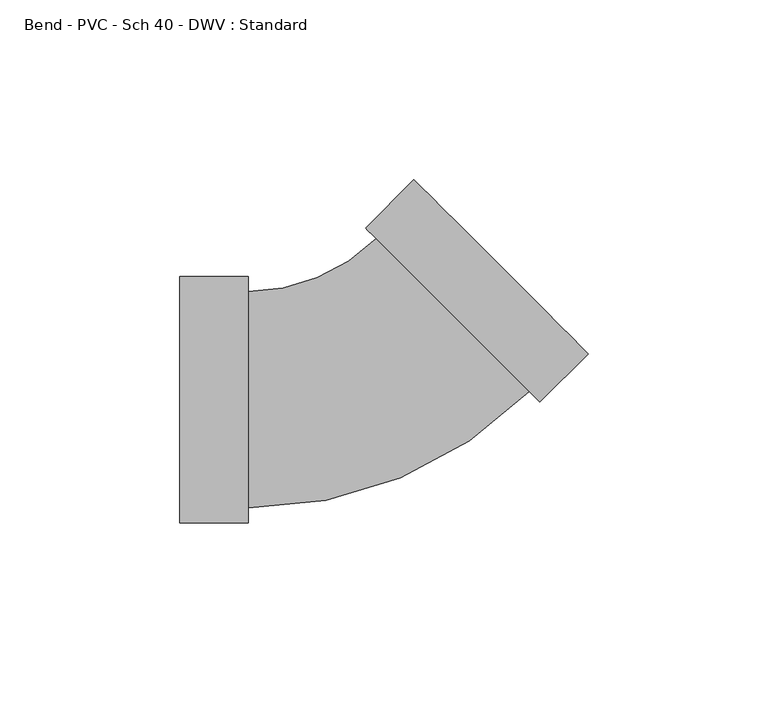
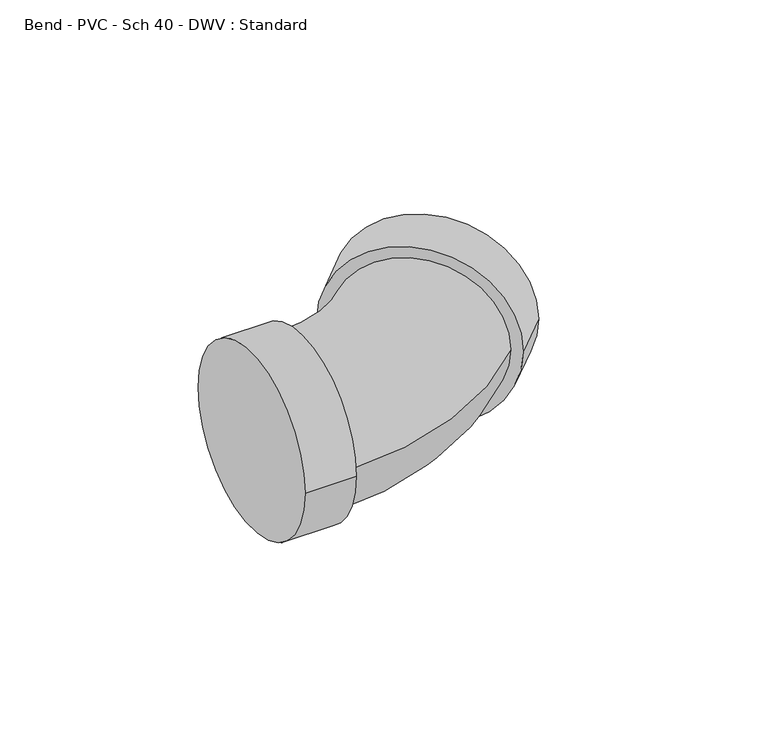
"""IFC4 building model written with IfcOpenShell, lengths in millimetres: pipe fitting geometry, Bend - PVC - Sch 40 - DWV : Standard."""

from ifc_helpers import new_model, si_unit, point, frame, origin, place, context, project, spatial, circle_curve, ellipse_curve, trimmed, source, transform, mapped, element, save
from ifc_brep_helpers import plane_surface, cylinder_surface, revolved_surface, advanced_brep


def bend_pvc_sch_40_dwv_standard_64a347df(model_context):
    return source(origin(), model_context, "Body", "AdvancedBrep", [
        advanced_brep(
        [(-52.4002, -34.3154, 0.0), (-52.4002, 34.3154, 0.0), (-33.3502, -34.3154, 0.0), (-33.3502, 34.3154, 0.0), (-33.3502, -30.1625, 0.0), (-33.3502, 30.1625, 0.0), (2.2522186, 44.9103525, 0.0), (44.9101692, 2.25587, 0.0), (47.8468323, -0.6805544, 0.0), (-0.6844445, 47.8467768, 0.0), (61.3166689, 12.7903774, 0.0), (12.785392, 61.3177086, 0.0)],
        [
            (0, 1, circle_curve(frame((-52.4002, 0.0, 0.0), z_axis=(-1.0, 0.0, 0.0), x_axis=(0.0, 1.0, 0.0)), 34.3154)),
            (1, 0, circle_curve(frame((-52.4002, 0.0, 0.0), z_axis=(-1.0, 0.0, 0.0), x_axis=(0.0, 1.0, 0.0)), 34.3154)),
            (2, 3, circle_curve(frame((-33.3502, 0.0, 0.0), z_axis=(1.0, 0.0, 0.0), x_axis=(0.0, 1.0, 0.0)), 34.3154)),
            (3, 2, circle_curve(frame((-33.3502, 0.0, 0.0), z_axis=(1.0, 0.0, 0.0), x_axis=(0.0, 1.0, 0.0)), 34.3154)),
            (4, 5, circle_curve(frame((-33.3502, 0.0, 0.0), z_axis=(-1.0, 0.0, 0.0), x_axis=(0.0, 1.0, 0.0)), 30.1625)),
            (5, 4, circle_curve(frame((-33.3502, 0.0, 0.0), z_axis=(-1.0, 0.0, 0.0), x_axis=(0.0, 1.0, 0.0)), 30.1625)),
            (0, 2),
            (3, 1),
            (6, 5, circle_curve(frame((-33.3502, 80.5098765, 0.0), z_axis=(0.0, 0.0, -1.0), x_axis=(0.0, -1.0, 0.0)), 50.3473765)),
            (4, 7, circle_curve(frame((-33.3502, 80.5098765, 0.0), z_axis=(0.0, 0.0, 1.0), x_axis=(0.0, -1.0, 0.0)), 110.6723765)),
            (7, 6, circle_curve(frame((23.5811939, 23.5831112, 0.0), z_axis=(-0.7070780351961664, -0.7071355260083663, 0.0), x_axis=(-0.7071355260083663, 0.7070780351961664, 0.0)), 30.1625)),
            (6, 7, circle_curve(frame((23.5811939, 23.5831112, 0.0), z_axis=(-0.7070780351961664, -0.7071355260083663, 0.0), x_axis=(-0.7071355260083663, 0.7070780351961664, 0.0)), 30.1625)),
            (8, 9, circle_curve(frame((23.5811939, 23.5831112, 0.0), z_axis=(-0.7070780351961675, -0.7071355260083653, 0.0), x_axis=(-0.7071355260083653, 0.7070780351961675, 0.0)), 34.3154)),
            (9, 8, circle_curve(frame((23.5811939, 23.5831112, 0.0), z_axis=(-0.7070780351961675, -0.7071355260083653, 0.0), x_axis=(-0.7071355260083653, 0.7070780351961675, 0.0)), 34.3154)),
            (10, 11, circle_curve(frame((37.0510305, 37.054043, 0.0), z_axis=(0.7070780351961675, 0.7071355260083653, 0.0), x_axis=(-0.7071355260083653, 0.7070780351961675, 0.0)), 34.3154)),
            (11, 10, circle_curve(frame((37.0510305, 37.054043, 0.0), z_axis=(0.7070780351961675, 0.7071355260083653, 0.0), x_axis=(-0.7071355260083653, 0.7070780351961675, 0.0)), 34.3154)),
            (8, 10),
            (11, 9),
        ],
        [
            plane_surface(frame((-52.4002, 0.0, 0.0), z_axis=(-1.0, 0.0, 0.0), x_axis=(0.0, 0.0, 1.0))),
            plane_surface(frame((-33.3502, 0.0, 0.0), z_axis=(1.0, 0.0, 0.0), x_axis=(0.0, 0.0, 1.0))),
            cylinder_surface(frame((-52.4002, 0.0, 0.0), z_axis=(-1.0, 0.0, 0.0), x_axis=(0.0, 1.0, 0.0)), 34.3154),
            revolved_surface(trimmed(ellipse_curve(frame((-33.3502, 0.0, 0.0), z_axis=(-1.0, 0.0, 0.0), x_axis=(0.0, 1.0, 0.0)), 30.1625, 30.1625), [point((-33.3502, -30.1625, 0.0))], [point((-33.3502, 30.1625, 0.0))], True, "CARTESIAN"), (-33.3502, 80.5098765, 0.0), (0.0, 0.0, 1.0)),
            revolved_surface(trimmed(ellipse_curve(frame((-33.3502, 0.0, 0.0), z_axis=(-1.0, 0.0, 0.0), x_axis=(0.0, 1.0, 0.0)), 30.1625, 30.1625), [point((-33.3502, 30.1625, 0.0))], [point((-33.3502, -30.1625, 0.0))], True, "CARTESIAN"), (-33.3502, 80.5098765, 0.0), (0.0, 0.0, 1.0)),
            plane_surface(frame((23.5811939, 23.5831112, 0.0), z_axis=(-0.7070780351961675, -0.7071355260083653, 0.0), x_axis=(0.0, 0.0, 1.0))),
            plane_surface(frame((37.0510305, 37.054043, 0.0), z_axis=(0.7070780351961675, 0.7071355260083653, 0.0), x_axis=(0.0, 0.0, 1.0))),
            cylinder_surface(frame((23.5811939, 23.5831112, 0.0), z_axis=(-0.7070780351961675, -0.7071355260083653, 0.0), x_axis=(-0.7071355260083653, 0.7070780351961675, 0.0)), 34.3154),
        ],
        [
            (0, [[1, 2]]),
            (1, [[3, 4], [5, 6]]),
            (2, [[-1, 7, -4, 8]]),
            (2, [[-2, -8, -3, -7]]),
            (3, [[9, -5, 10, 11]]),
            (4, [[-9, 12, -10, -6]]),
            (5, [[13, 14], [-11, -12]]),
            (6, [[15, 16]]),
            (7, [[-13, 17, -16, 18]]),
            (7, [[-14, -18, -15, -17]]),
        ],
    ),
    ])


if __name__ == "__main__":
    model = new_model("IFC4")
    model_context = context("Model", 3, world=origin())
    ifc_project = project(units=[si_unit("LENGTHUNIT", "METRE", prefix="MILLI")], contexts=[model_context])
    site = spatial("IfcSite", under=ifc_project)
    building = spatial("IfcBuilding", under=site)
    placement = place(None, origin())
    bend_pvc_sch_40_dwv_standard_shape = bend_pvc_sch_40_dwv_standard_64a347df(model_context)
    element("IfcPipeFitting", 1, ObjectType="Bend - PVC - Sch 40 - DWV : Standard", at=placement, inside=building, context=model_context, shape_type="MappedRepresentation", body=[
        mapped(bend_pvc_sch_40_dwv_standard_shape, transform((0.0, 0.0, 0.0), x_axis=(1.0, 0.0, 0.0), y_axis=(0.0, 1.0, 0.0), z_axis=(0.0, 0.0, 1.0))),
    ])
    save(model, "model.ifc")
